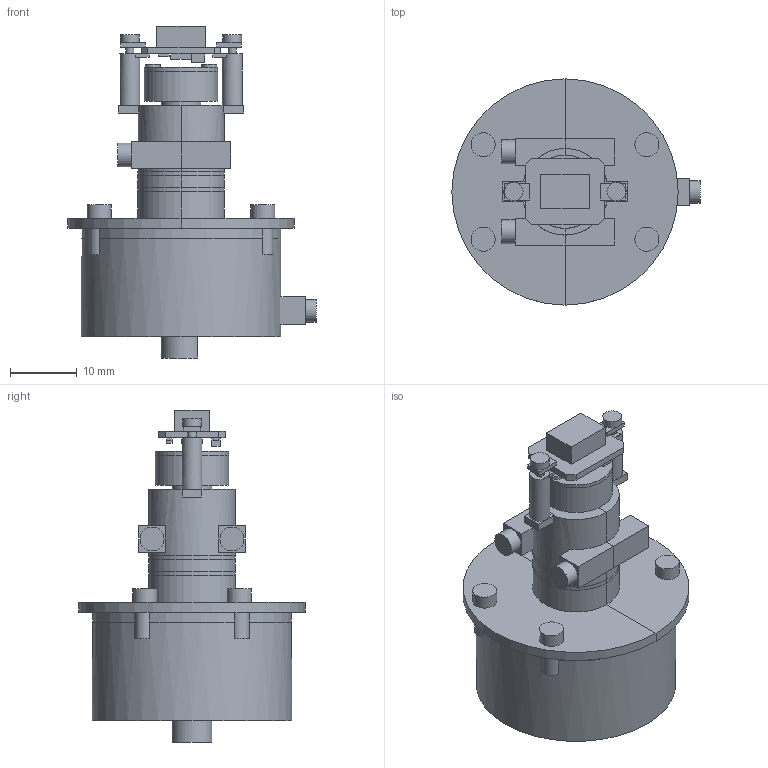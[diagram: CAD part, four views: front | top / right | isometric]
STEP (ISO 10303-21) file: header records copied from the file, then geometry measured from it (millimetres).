
FILE_DESCRIPTION(('Open CASCADE Model'),'2;1');
FILE_NAME('Open CASCADE Shape Model','2026-09-24T15:56:07',('Author'),( 'Open CASCADE'),'Open CASCADE STEP processor 7.8','Open CASCADE 7.8' ,'Unknown');
FILE_SCHEMA(('AUTOMOTIVE_DESIGN { 1 0 10303 214 1 1 1 1 }'));
Length unit declared in the file: millimetre
Products named in the file (48): O5CN_sensor_installation_envelope_trial; one_piece_brake_cup; housing_L; housing_R; cup_mount_0; cup_mount_1; cup_mount_2; cup_mount_3; rear_bush_L; rear_bush_R; front_bush_L; front_bush_R; thrust_rear_L; thrust_rear_R; thrust_front_L; thrust_front_R; measurement_shaft; floating_brake_disc; front_lining_backing; rear_lining_backing; front_friction_lining; rear_friction_lining; keyed_pressure_plate; spring_front_washer; disc_spring_1; disc_spring_2; disc_spring_3; disc_spring_4; spring_rear_washer; threaded_adjuster_cap; cap_lock_dog_screw; bearing_clamp_-6; bearing_clamp_6; diametric_magnet; magnet_keeper; keeper_screw_-4.25; keeper_screw_4.25; pcb_edge_clamp_-7.7; pcb_clamp_screw_-7.7; pcb_edge_clamp_7.7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
Assembly tree (47 placements, depth 2):
  O5CN_sensor_installation_envelope_trial
    one_piece_brake_cup
    housing_L
    housing_R
    cup_mount_0
    cup_mount_1
    cup_mount_2
    cup_mount_3
    rear_bush_L
    rear_bush_R
    front_bush_L
    front_bush_R
    thrust_rear_L
    thrust_rear_R
    thrust_front_L
    thrust_front_R
    measurement_shaft
    floating_brake_disc
    front_lining_backing
    rear_lining_backing
    front_friction_lining
    rear_friction_lining
    keyed_pressure_plate
    spring_front_washer
    disc_spring_1
    disc_spring_2
    disc_spring_3
    disc_spring_4
    spring_rear_washer
    threaded_adjuster_cap
    cap_lock_dog_screw
    bearing_clamp_-6
    bearing_clamp_6
    diametric_magnet
    magnet_keeper
    keeper_screw_-4.25
    keeper_screw_4.25
    pcb_edge_clamp_-7.7
    pcb_clamp_screw_-7.7
    pcb_edge_clamp_7.7
    pcb_clamp_screw_7.7
    PCB_CN1_1mm
    MT6701QT_max_body
    CJT_header_max_body
    C1_body
    C2_body
    R1_body
    R2_body
Bounding box: 37.3 x 34 x 49.88 mm (x, y, z)
Volume: 12815.7 mm3; surface area: 21803.5 mm2
Topology: 47 solids, 47 shells, 950 faces, 2417 edges, 1588 vertices
Faces by surface type: plane 407, cylinder 295, bspline 240, cone 8
Full cylindrical faces by diameter (mm): 0.96 x3, 1 x2, 1.24 x2, 1.3 x6, 1.58 x1, 1.6 x6, 1.66 x7, 1.7 x4, 2.2 x10, 2.8 x2, 3 x2, 3.4 x1, 3.6 x6, 5.6 x1, 6 x3, 6.1 x1, 6.2 x4, 6.3 x2, 6.8 x1, 8.4 x2, 8.6 x4, 9 x1, 9.2 x1, 11 x2, 12 x4, 12.06 x2, 12.08 x1, 12.16 x1, 12.8 x1, 13.1 x1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
Entity records: 140813 total; most frequent: CARTESIAN_POINT 94832, DIRECTION 6984, ORIENTED_EDGE 4834, PCURVE 4834, DEFINITIONAL_REPRESENTATION 4834, LINE 3931, VECTOR 3931, EDGE_CURVE 2417
